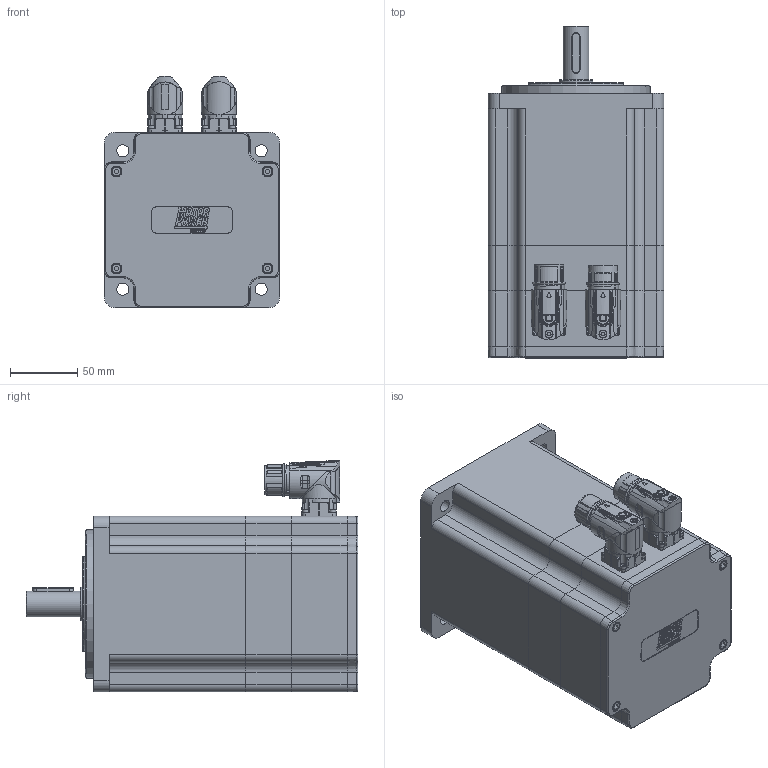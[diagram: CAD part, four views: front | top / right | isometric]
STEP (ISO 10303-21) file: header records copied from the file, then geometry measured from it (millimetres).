
FILE_DESCRIPTION(/* description */ ('Unknown'),/* implementation_level */ '2;1');
FILE_NAME(/* name */ 'TC4-130.5G.XX.X. 3.M1.1.1.C21 Q0C603',/* time_stamp */ '2026-03-05T15:26:08+01:00',/* author */ ('Unknown'),/* organization */ ('Unknown'),/* preprocessor_version */ 'ST-DEVELOPER v19.4',/* originating_system */ 'Solid Edge',/* authorisation */ 'Unknown');
FILE_SCHEMA (('AUTOMOTIVE_DESIGN {1 0 10303 214 3 1 1}'));
Products named in the file (14): Q0C603 5G M1 FRENO VUOTO; 005911000185; 007117000456; 005119002009; Albero TC4 130 5G FRE M1; 003155002224; 005911000432; 003251022006; 005113000500; 003103040233; 005911000252; 003107003290; Corpo TC4-130 5G single cable; 007117000454
Assembly tree (28 placements, depth 2):
  Q0C603 5G M1 FRENO VUOTO
    005911000185  x8
    007117000456
    005119002009
    Albero TC4 130 5G FRE M1
    003155002224
    005911000432  x6
    003251022006
    005113000500
    003103040233
    005911000252  x4
    003107003290
    Corpo TC4-130 5G single cable
    007117000454
Bounding box: 130 x 246 x 171.5 mm (x, y, z)
Volume: 1170718.5 mm3; surface area: 365183.8 mm2
Topology: 30 solids, 30 shells, 2140 faces, 5373 edges, 3462 vertices
Faces by surface type: plane 953, cylinder 530, cone 262, bspline 230, torus 116, sphere 49
Full cylindrical faces by diameter (mm): 0.5 x1, 1 x21, 1.2 x17, 1.4 x4, 2 x4, 2.013 x16, 2.459 x2, 2.5 x8, 2.8 x4, 3 x12, 3.2 x1, 3.242 x40, 4 x11, 4.134 x8, 4.5 x16, 4.7 x8, 4.917 x2, 5.5 x6, 5.8 x1, 5.9 x2, 6 x5, 6.4 x1, 6.8 x1, 7 x10, 8 x14, 10 x5, 15.2 x1, 16 x1, 17.4 x3, 18 x1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
Entity records: 74789 total; most frequent: CARTESIAN_POINT 19179, ORIENTED_EDGE 8640, DIRECTION 8335, EDGE_CURVE 4320, AXIS2_PLACEMENT_3D 3202, VERTEX_POINT 3029, FACE_BOUND 2595, EDGE_LOOP 2563
